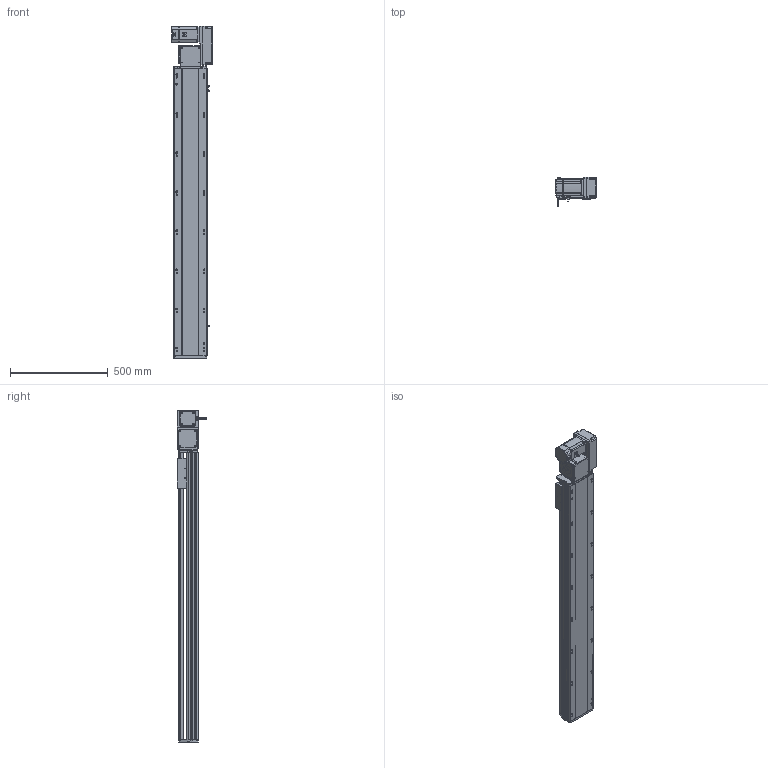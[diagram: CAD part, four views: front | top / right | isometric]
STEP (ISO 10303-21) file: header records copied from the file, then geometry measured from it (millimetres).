
FILE_DESCRIPTION (( 'STEP AP214' ), '1' );
FILE_NAME ('RTB17S-XX-1200-R-M75-C4.STEP', '2025-12-12T01:36:46', ( '' ), ( '' ), 'SwSTEP 2.0', 'SolidWorks 2018', '' );
FILE_SCHEMA (( 'AUTOMOTIVE_DESIGN' ));
Length unit declared in the file: millimetre
Products named in the file (15): RTB22S-GY-008-M75--萇儂啣^RTB17S-R-々湍釱蚾饜-750W_RTB17S-XX-XX-R-M75-C4; RTB17S-XX-1200-R-M75-C4; RTB17-R-011菁釱^RTB17S-XX-XX-R-M75-C4; RTB17S-L-014-T20-P75--々湍釱^RTB17S-R-々湍釱蚾饜-750W_RTB17S-XX-XX-R-M75-C4; RTB17S-L-004-賑釱^RTB17S-賑釱_RTB17S-XX-XX-R-M75-C4; RTH13-BL-012覜茼え俋离^RTB17S-賑釱_RTB17S-XX-XX-R-M75-C4; 750W萇儂^RTB17S-XX-XX-R-M75-C4; RTB22S-GY-017P^RTB17S-R-々湍釱蚾饜-750W_RTB17S-XX-XX-R-M75-C4; RTB17S-賑釱^RTB17S-XX-XX-R-M75-C4; RTB17S-L-007奻裔^RTB17S-XX-XX-R-M75-C4; RTB17S-R-々湍釱蚾饜-750W^RTB17S-XX-XX-R-M75-C4; RTB17S-L-001-耜醱啣^RTB17S-XX-XX-R-M75-C4; RTB22S-GY-018P^RTB17S-R-々湍釱蚾饜-750W_RTB17S-XX-XX-R-M75-C4; RTB22S-GY-005P^RTB17S-R-々湍釱蚾饜-750W_RTB17S-XX-XX-R-M75-C4; EE672^RTB17S-XX-XX-R-M75-C4
Assembly tree (17 placements, depth 3):
  RTB17S-XX-1200-R-M75-C4
    RTB17-R-011菁釱^RTB17S-XX-XX-R-M75-C4
    EE672^RTB17S-XX-XX-R-M75-C4  x3
    RTB17S-L-001-耜醱啣^RTB17S-XX-XX-R-M75-C4
    RTB17S-賑釱^RTB17S-XX-XX-R-M75-C4
      RTB17S-L-004-賑釱^RTB17S-賑釱_RTB17S-XX-XX-R-M75-C4
      RTH13-BL-012覜茼え俋离^RTB17S-賑釱_RTB17S-XX-XX-R-M75-C4
    RTB17S-L-007奻裔^RTB17S-XX-XX-R-M75-C4
    750W萇儂^RTB17S-XX-XX-R-M75-C4
    RTB17S-R-々湍釱蚾饜-750W^RTB17S-XX-XX-R-M75-C4
      RTB17S-L-014-T20-P75--々湍釱^RTB17S-R-々湍釱蚾饜-750W_RTB17S-XX-XX-R-M75-C4
      RTB22S-GY-005P^RTB17S-R-々湍釱蚾饜-750W_RTB17S-XX-XX-R-M75-C4
      RTB22S-GY-017P^RTB17S-R-々湍釱蚾饜-750W_RTB17S-XX-XX-R-M75-C4  x2
      RTB22S-GY-008-M75--萇儂啣^RTB17S-R-々湍釱蚾饜-750W_RTB17S-XX-XX-R-M75-C4
      RTB22S-GY-018P^RTB17S-R-々湍釱蚾饜-750W_RTB17S-XX-XX-R-M75-C4
Bounding box: 207.4 x 152.7 x 1699 mm (x, y, z)
Volume: 13453992 mm3; surface area: 2315685.6 mm2
Topology: 17 solids, 17 shells, 2105 faces, 5836 edges, 3770 vertices
Faces by surface type: plane 972, cylinder 717, bspline 294, cone 110, sphere 8, torus 4
Entity records: 58870 total; most frequent: CARTESIAN_POINT 17300, ORIENTED_EDGE 8516, DIRECTION 7952, EDGE_CURVE 4258, AXIS2_PLACEMENT_3D 2790, VERTEX_POINT 2774, VECTOR 2372, LINE 2372
